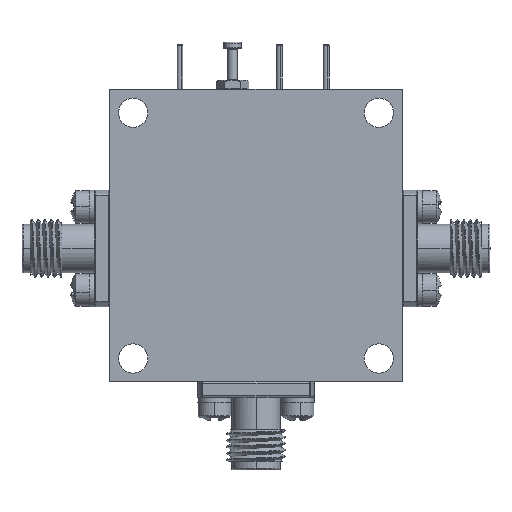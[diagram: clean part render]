
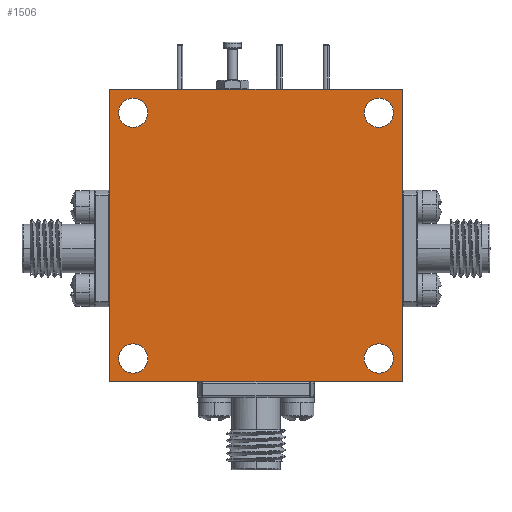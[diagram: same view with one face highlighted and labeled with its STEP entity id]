
A CAD part, front view. The second image highlights one B-rep face of the part: STEP entity #1506.
In plain terms, the highlighted planar face has unit normal (0, -1, 0).
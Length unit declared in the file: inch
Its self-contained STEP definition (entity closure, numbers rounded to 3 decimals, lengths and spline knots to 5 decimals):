
#62 = VERTEX_POINT ( 'NONE', #21054 ) ;
#1506 = ADVANCED_FACE ( 'NONE', ( #43923, #34655, #2515, #55576, #65938 ), #23374, .F. ) ;
#2106 = VERTEX_POINT ( 'NONE', #14570 ) ;
#2515 = FACE_BOUND ( 'NONE', #33277, .T. ) ;
#2556 = EDGE_LOOP ( 'NONE', ( #53773, #67313 ) ) ;
#3241 = CIRCLE ( 'NONE', #10840, 0.0625 ) ;
#4357 = DIRECTION ( 'NONE',  ( 0., 0., 1. ) ) ;
#4448 = AXIS2_PLACEMENT_3D ( 'NONE', #45892, #19866, #30848 ) ;
#4586 = DIRECTION ( 'NONE',  ( 0., 1., 0. ) ) ;
#5076 = EDGE_CURVE ( 'NONE', #51588, #2106, #60603, .T. ) ;
#5283 = LINE ( 'NONE', #42541, #58314 ) ;
#5861 = VERTEX_POINT ( 'NONE', #46042 ) ;
#8500 = EDGE_LOOP ( 'NONE', ( #16183, #38613 ) ) ;
#8669 = CARTESIAN_POINT ( 'NONE',  ( 0., -0.3, 0. ) ) ;
#9140 = DIRECTION ( 'NONE',  ( 0., 1., 0. ) ) ;
#10840 = AXIS2_PLACEMENT_3D ( 'NONE', #27399, #43091, #11938 ) ;
#11192 = EDGE_CURVE ( 'NONE', #59200, #61483, #52576, .T. ) ;
#11938 = DIRECTION ( 'NONE',  ( 0., 0., 1. ) ) ;
#12385 = CIRCLE ( 'NONE', #62761, 0.0625 ) ;
#12773 = DIRECTION ( 'NONE',  ( 0., 0., 1. ) ) ;
#12857 = AXIS2_PLACEMENT_3D ( 'NONE', #35169, #30068, #4357 ) ;
#14048 = DIRECTION ( 'NONE',  ( 0., 0., 1. ) ) ;
#14570 = CARTESIAN_POINT ( 'NONE',  ( 0.1, -0.3, -1.2125 ) ) ;
#14626 = EDGE_CURVE ( 'NONE', #5861, #39779, #14718, .T. ) ;
#14718 = CIRCLE ( 'NONE', #46409, 0.0625 ) ;
#15081 = CARTESIAN_POINT ( 'NONE',  ( 1.25, -0.3, -1.25 ) ) ;
#15084 = AXIS2_PLACEMENT_3D ( 'NONE', #35056, #4586, #29964 ) ;
#15301 = DIRECTION ( 'NONE',  ( -1., 0., 0. ) ) ;
#16183 = ORIENTED_EDGE ( 'NONE', *, *, #34524, .T. ) ;
#16753 = ORIENTED_EDGE ( 'NONE', *, *, #49274, .F. ) ;
#17869 = DIRECTION ( 'NONE',  ( 0., 1., 0. ) ) ;
#17880 = DIRECTION ( 'NONE',  ( 0., 1., 0. ) ) ;
#18371 = EDGE_CURVE ( 'NONE', #52242, #53585, #3241, .T. ) ;
#18929 = AXIS2_PLACEMENT_3D ( 'NONE', #30612, #46671, #56961 ) ;
#19224 = CARTESIAN_POINT ( 'NONE',  ( 0.1, -0.3, -0.1625 ) ) ;
#19258 = DIRECTION ( 'NONE',  ( 0., 0., 1. ) ) ;
#19866 = DIRECTION ( 'NONE',  ( 0., 1., 0. ) ) ;
#20201 = DIRECTION ( 'NONE',  ( 0., 0., -1. ) ) ;
#21053 = CARTESIAN_POINT ( 'NONE',  ( 1.15, -0.3, -1.2125 ) ) ;
#21054 = CARTESIAN_POINT ( 'NONE',  ( 1.25, -0.3, 0. ) ) ;
#23374 = PLANE ( 'NONE',  #23649 ) ;
#23649 = AXIS2_PLACEMENT_3D ( 'NONE', #8669, #17869, #19258 ) ;
#24767 = VECTOR ( 'NONE', #20201, 39.37008 ) ;
#24900 = CIRCLE ( 'NONE', #15084, 0.0625 ) ;
#25204 = ORIENTED_EDGE ( 'NONE', *, *, #28404, .T. ) ;
#27372 = ORIENTED_EDGE ( 'NONE', *, *, #27665, .F. ) ;
#27399 = CARTESIAN_POINT ( 'NONE',  ( 1.15, -0.3, -1.15 ) ) ;
#27665 = EDGE_CURVE ( 'NONE', #35525, #55356, #43646, .T. ) ;
#27822 = EDGE_CURVE ( 'NONE', #55356, #62, #5283, .T. ) ;
#27869 = DIRECTION ( 'NONE',  ( 0., 1., 0. ) ) ;
#28404 = EDGE_CURVE ( 'NONE', #53585, #52242, #28857, .T. ) ;
#28857 = CIRCLE ( 'NONE', #45261, 0.0625 ) ;
#29964 = DIRECTION ( 'NONE',  ( 0., 0., 1. ) ) ;
#30050 = DIRECTION ( 'NONE',  ( 0., 0., 1. ) ) ;
#30068 = DIRECTION ( 'NONE',  ( 0., 1., 0. ) ) ;
#30612 = CARTESIAN_POINT ( 'NONE',  ( 0.1, -0.3, -1.15 ) ) ;
#30848 = DIRECTION ( 'NONE',  ( 0., 0., 1. ) ) ;
#31463 = EDGE_CURVE ( 'NONE', #65988, #35525, #31734, .T. ) ;
#31734 = LINE ( 'NONE', #67412, #63213 ) ;
#33277 = EDGE_LOOP ( 'NONE', ( #54011, #64884 ) ) ;
#34524 = EDGE_CURVE ( 'NONE', #61483, #59200, #66553, .T. ) ;
#34655 = FACE_BOUND ( 'NONE', #43453, .T. ) ;
#35048 = CARTESIAN_POINT ( 'NONE',  ( 1.15, -0.3, -0.0375 ) ) ;
#35056 = CARTESIAN_POINT ( 'NONE',  ( 0.1, -0.3, -1.15 ) ) ;
#35169 = CARTESIAN_POINT ( 'NONE',  ( 1.15, -0.3, -0.1 ) ) ;
#35421 = ORIENTED_EDGE ( 'NONE', *, *, #27822, .F. ) ;
#35525 = VERTEX_POINT ( 'NONE', #58878 ) ;
#36739 = ORIENTED_EDGE ( 'NONE', *, *, #18371, .T. ) ;
#38613 = ORIENTED_EDGE ( 'NONE', *, *, #11192, .T. ) ;
#39779 = VERTEX_POINT ( 'NONE', #19224 ) ;
#40185 = CARTESIAN_POINT ( 'NONE',  ( 0.1, -0.3, -1.0875 ) ) ;
#42541 = CARTESIAN_POINT ( 'NONE',  ( 0., -0.3, 0. ) ) ;
#43091 = DIRECTION ( 'NONE',  ( 0., 1., 0. ) ) ;
#43453 = EDGE_LOOP ( 'NONE', ( #25204, #36739 ) ) ;
#43646 = LINE ( 'NONE', #48121, #65978 ) ;
#43923 = FACE_BOUND ( 'NONE', #8500, .T. ) ;
#45261 = AXIS2_PLACEMENT_3D ( 'NONE', #49072, #27869, #14048 ) ;
#45892 = CARTESIAN_POINT ( 'NONE',  ( 1.15, -0.3, -0.1 ) ) ;
#46042 = CARTESIAN_POINT ( 'NONE',  ( 0.1, -0.3, -0.0375 ) ) ;
#46409 = AXIS2_PLACEMENT_3D ( 'NONE', #55250, #17880, #12773 ) ;
#46671 = DIRECTION ( 'NONE',  ( 0., 1., 0. ) ) ;
#46684 = EDGE_LOOP ( 'NONE', ( #27372, #49454, #16753, #35421 ) ) ;
#47258 = EDGE_CURVE ( 'NONE', #39779, #5861, #12385, .T. ) ;
#48121 = CARTESIAN_POINT ( 'NONE',  ( 0., -0.3, -1.25 ) ) ;
#48227 = CARTESIAN_POINT ( 'NONE',  ( 0., -0.3, 0. ) ) ;
#49072 = CARTESIAN_POINT ( 'NONE',  ( 1.15, -0.3, -1.15 ) ) ;
#49274 = EDGE_CURVE ( 'NONE', #62, #65988, #67537, .T. ) ;
#49454 = ORIENTED_EDGE ( 'NONE', *, *, #31463, .F. ) ;
#51193 = CARTESIAN_POINT ( 'NONE',  ( 1.15, -0.3, -1.0875 ) ) ;
#51398 = CARTESIAN_POINT ( 'NONE',  ( 1.25, -0.3, 0. ) ) ;
#51588 = VERTEX_POINT ( 'NONE', #40185 ) ;
#51680 = EDGE_CURVE ( 'NONE', #2106, #51588, #24900, .T. ) ;
#52242 = VERTEX_POINT ( 'NONE', #21053 ) ;
#52576 = CIRCLE ( 'NONE', #4448, 0.0625 ) ;
#53585 = VERTEX_POINT ( 'NONE', #51193 ) ;
#53773 = ORIENTED_EDGE ( 'NONE', *, *, #14626, .T. ) ;
#54011 = ORIENTED_EDGE ( 'NONE', *, *, #5076, .T. ) ;
#55250 = CARTESIAN_POINT ( 'NONE',  ( 0.1, -0.3, -0.1 ) ) ;
#55356 = VERTEX_POINT ( 'NONE', #48227 ) ;
#55576 = FACE_BOUND ( 'NONE', #2556, .T. ) ;
#56060 = CARTESIAN_POINT ( 'NONE',  ( 0.1, -0.3, -0.1 ) ) ;
#56961 = DIRECTION ( 'NONE',  ( 0., 0., 1. ) ) ;
#57169 = CARTESIAN_POINT ( 'NONE',  ( 1.15, -0.3, -0.1625 ) ) ;
#58314 = VECTOR ( 'NONE', #63542, 39.37008 ) ;
#58878 = CARTESIAN_POINT ( 'NONE',  ( 0., -0.3, -1.25 ) ) ;
#59146 = DIRECTION ( 'NONE',  ( 0., 0., 1. ) ) ;
#59200 = VERTEX_POINT ( 'NONE', #57169 ) ;
#60603 = CIRCLE ( 'NONE', #18929, 0.0625 ) ;
#61483 = VERTEX_POINT ( 'NONE', #35048 ) ;
#62761 = AXIS2_PLACEMENT_3D ( 'NONE', #56060, #9140, #30050 ) ;
#63213 = VECTOR ( 'NONE', #15301, 39.37008 ) ;
#63542 = DIRECTION ( 'NONE',  ( 1., 0., 0. ) ) ;
#64884 = ORIENTED_EDGE ( 'NONE', *, *, #51680, .T. ) ;
#65938 = FACE_OUTER_BOUND ( 'NONE', #46684, .T. ) ;
#65978 = VECTOR ( 'NONE', #59146, 39.37008 ) ;
#65988 = VERTEX_POINT ( 'NONE', #15081 ) ;
#66553 = CIRCLE ( 'NONE', #12857, 0.0625 ) ;
#67313 = ORIENTED_EDGE ( 'NONE', *, *, #47258, .T. ) ;
#67412 = CARTESIAN_POINT ( 'NONE',  ( 1.25, -0.3, -1.25 ) ) ;
#67537 = LINE ( 'NONE', #51398, #24767 ) ;
